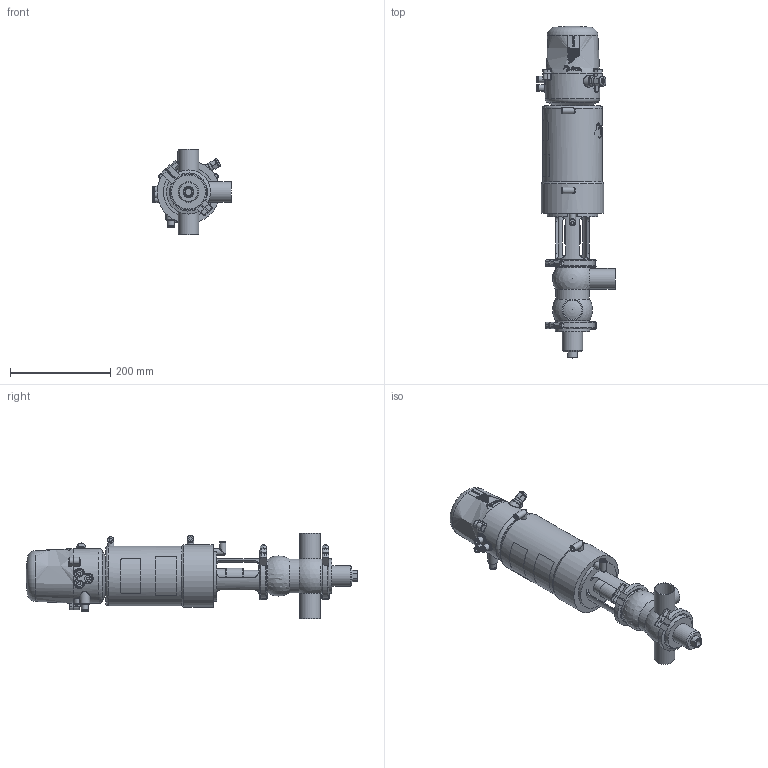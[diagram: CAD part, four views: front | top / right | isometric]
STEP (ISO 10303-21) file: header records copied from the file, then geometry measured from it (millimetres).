
FILE_DESCRIPTION (( 'STEP AP214' ), '1' );
FILE_NAME ('INNOVA P BB-90 W DIN 040 & C-TOP S_10.250.16.0013.STEP', '2024-08-09T11:56:07', ( '' ), ( '' ), 'SwSTEP 2.0', 'SolidWorks 2023', '' );
FILE_SCHEMA (( 'AUTOMOTIVE_DESIGN' ));
Length unit declared in the file: millimetre
Products named in the file (7): 10.250.15.0003_DN 040; 10.250.15.0002_Type P T1; INNOVA P BB-90 W DIN 040 & C-TOP S_10.250.16.0013; 10.426.15.0001_C-TOP S - 3 EV; 10.250.15.0001_DIN 040; 10.251.15.0005_DIN 040; 10.240.15.0001_DN 040
Assembly tree (7 placements, depth 2):
  INNOVA P BB-90 W DIN 040 & C-TOP S_10.250.16.0013
    10.250.15.0001_DIN 040
    10.250.15.0002_Type P T1
    10.426.15.0001_C-TOP S - 3 EV
    10.251.15.0005_DIN 040
    10.240.15.0001_DN 040  x2
    10.250.15.0003_DN 040
Bounding box: 156 x 662 x 170 mm (x, y, z)
Volume: 4781120.7 mm3; surface area: 368873.6 mm2
Topology: 7 solids, 7 shells, 1207 faces, 2905 edges, 1929 vertices
Faces by surface type: plane 414, cylinder 385, cone 203, bspline 163, torus 33, sphere 9
Full cylindrical faces by diameter (mm): 0.371 x17, 0.512 x16, 0.658 x16, 0.795 x16, 0.94 x15, 1.098 x15, 1.241 x13, 1.382 x13, 1.523 x11, 1.669 x10, 2.201 x1, 4.2 x2, 5 x1, 5.5 x2, 6 x4, 6.15 x3, 8 x5, 10 x1, 10.5 x3, 11 x4, 12.5 x9, 13 x6, 13.5 x2, 14 x1, 17 x3, 20 x2, 22 x2, 23 x1, 28 x1, 31.5 x1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
Entity records: 59107 total; most frequent: CARTESIAN_POINT 27678, ORIENTED_EDGE 4616, DIRECTION 3765, EDGE_CURVE 2308, VERTEX_POINT 1645, EDGE_LOOP 1629, AXIS2_PLACEMENT_3D 1549, FACE_OUTER_BOUND 1376
